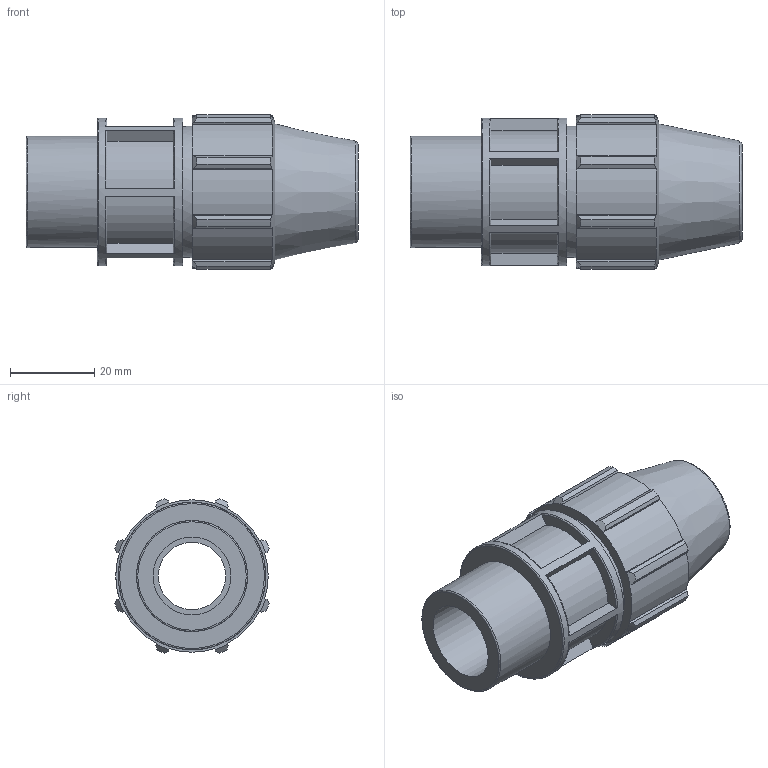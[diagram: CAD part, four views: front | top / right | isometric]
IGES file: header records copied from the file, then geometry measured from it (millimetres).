
Global section: file name: 070206016007__0702060160070A.ipt; native system: Autodesk Inventor 2015; preprocessor: unknown; author: KIM; date: 20170606.110230; units: millimetre
Bounding box: 79 x 36.7 x 36.7 mm (x, y, z)
Volume: 41855.2 mm3; surface area: 14955.3 mm2
Topology: 1 solids, 1 shells, 117 faces, 322 edges, 217 vertices
Faces by surface type: plane 63, cylinder 25, revolution 19, cone 10
Full cylindrical faces by diameter (mm): 26.441 x1, 31.2 x1, 35.1 x1
